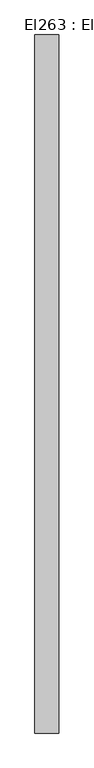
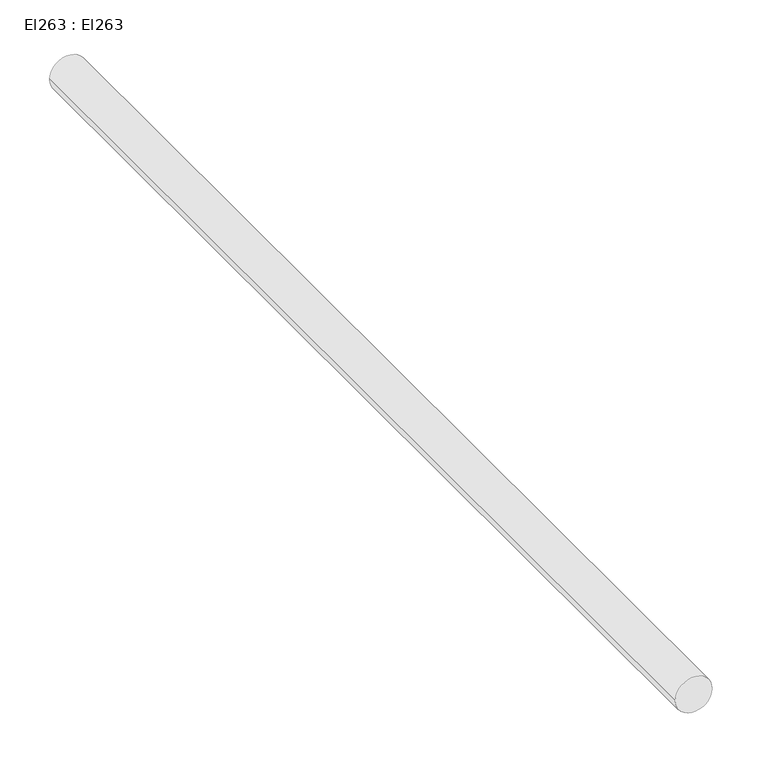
"""IFC4 building model written with IfcOpenShell, lengths in millimetres: cable carrier segment geometry, El263 : El263."""

from ifc_helpers import new_model, si_unit, point, frame, frame_2d, origin, place, context, project, spatial, circle_curve, trimmed, segment, composite_curve, outline, extrude, source, transform, mapped, element, save


def el263_el263_079631f4(model_context):
    return source(origin(), model_context, "Body", "SweptSolid", [
        extrude(outline(composite_curve([segment(trimmed(circle_curve(frame_2d((2950.0, 7650.0)), 21.5), [point((2950.0, 7628.5))], [point((2950.0, 7671.5))], False, "CARTESIAN"), True, "CONTINUOUS"), segment(trimmed(circle_curve(frame_2d((2950.0, 7650.0)), 21.5), [point((2950.0, 7671.5))], [point((2950.0, 7628.5))], False, "CARTESIAN"), True, "CONTINUOUS")], self_intersect=False)), frame((0.0, 25105.479, 0.0), z_axis=(0.0, 1.0, 0.0), x_axis=(0.0, 0.0, 1.0)), (0.0, 0.0, 1.0), 1259.44),
    ])


if __name__ == "__main__":
    model = new_model("IFC4")
    model_context = context("Model", 3, world=origin())
    ifc_project = project(units=[si_unit("LENGTHUNIT", "METRE", prefix="MILLI")], contexts=[model_context])
    site = spatial("IfcSite", under=ifc_project)
    building = spatial("IfcBuilding", under=site)
    placement = place(None, origin())
    el263_el263_shape = el263_el263_079631f4(model_context)
    element("IfcCableCarrierSegment", 1, ObjectType="El263 : El263", at=placement, inside=building, context=model_context, shape_type="MappedRepresentation", body=[
        mapped(el263_el263_shape, transform((0.0, 0.0, 0.0), x_axis=(1.0, 0.0, 0.0), y_axis=(0.0, 1.0, 0.0), z_axis=(0.0, 0.0, 1.0))),
    ])
    save(model, "model.ifc")
